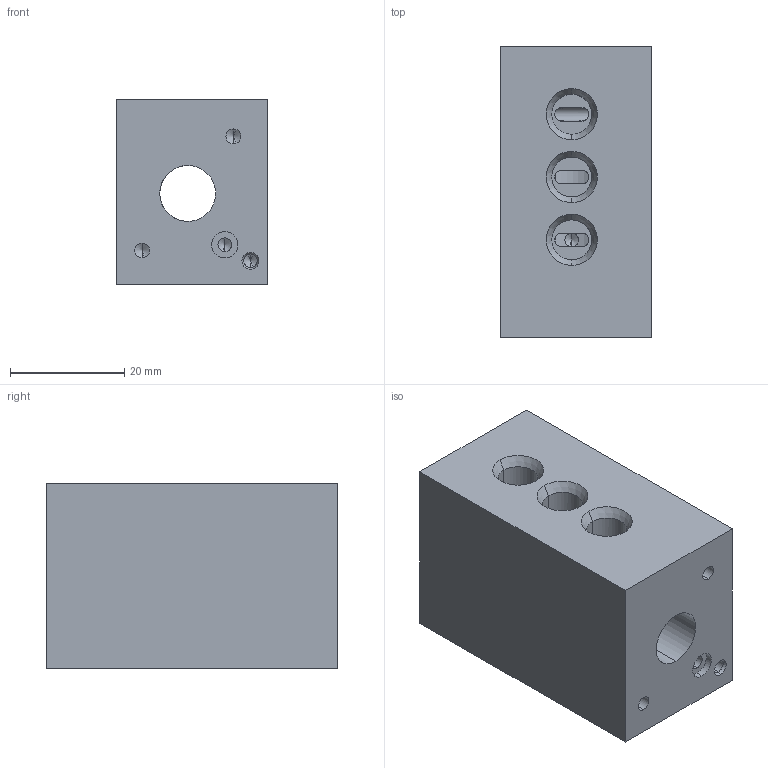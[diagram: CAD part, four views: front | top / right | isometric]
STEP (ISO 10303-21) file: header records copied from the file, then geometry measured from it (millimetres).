
FILE_DESCRIPTION(('CATIA V5 STEP Exchange'),'2;1');
FILE_NAME('F:\1.项目开发\22.集成式智能空簧\集成空簧方案设计\电磁阀结构验证\JCKH-202阀体-20211123.stp','2021-11-23T05:35:04+00:00',('none'),('none'),'CATIA Version 5 Release 20 GA (IN-10)','CATIA V5 STEP AP214','none');
FILE_SCHEMA(('AUTOMOTIVE_DESIGN { 1 0 10303 214 1 1 1 1 }'));
Length unit declared in the file: millimetre
Products named in the file (1): JCKH-202
Bounding box: 26.5 x 51 x 32.5 mm (x, y, z)
Volume: 37484.7 mm3; surface area: 11467.2 mm2
Topology: 1 solids, 1 shells, 159 faces, 414 edges, 246 vertices
Faces by surface type: cylinder 76, cone 40, plane 25, torus 18
Entity records: 5036 total; most frequent: CARTESIAN_POINT 1442, ORIENTED_EDGE 772, DIRECTION 606, EDGE_CURVE 386, AXIS2_PLACEMENT_3D 323, VERTEX_POINT 246, EDGE_LOOP 202, CIRCLE 184
